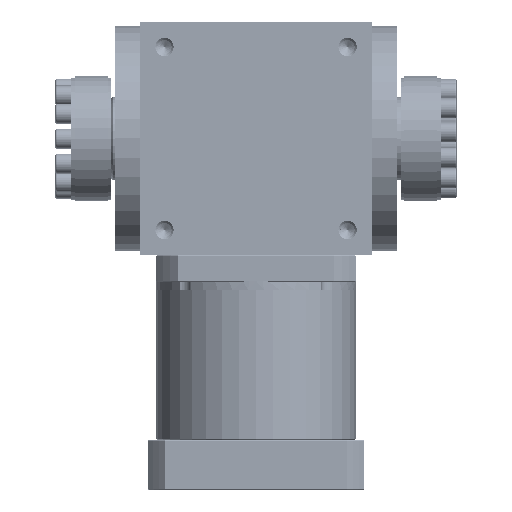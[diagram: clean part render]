
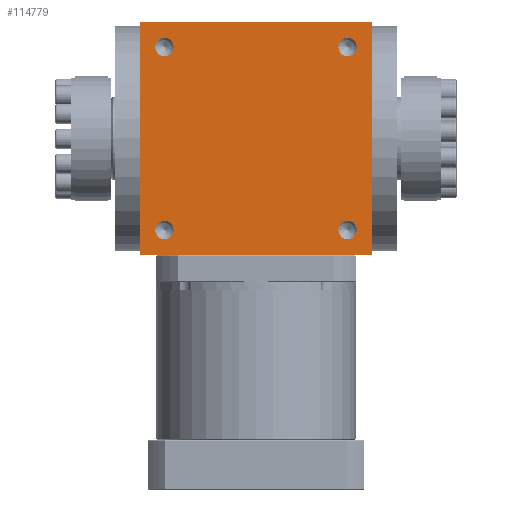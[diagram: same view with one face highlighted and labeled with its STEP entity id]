
A CAD part, top view. The second image highlights one B-rep face of the part: STEP entity #114779.
In plain terms, the highlighted planar face has unit normal (0, 0, 1).
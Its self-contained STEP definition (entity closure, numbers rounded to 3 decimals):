
#281 = DIRECTION ( 'NONE',  ( 1., 0., 0. ) ) ;
#366 = DIRECTION ( 'NONE',  ( 0., -1., 0. ) ) ;
#1118 = AXIS2_PLACEMENT_3D ( 'NONE', #122583, #160795, #148311 ) ;
#3723 = ORIENTED_EDGE ( 'NONE', *, *, #171736, .F. ) ;
#4622 = CIRCLE ( 'NONE', #30126, 5.5 ) ;
#6219 = CARTESIAN_POINT ( 'NONE',  ( -80.003, -36.401, 311. ) ) ;
#7554 = VERTEX_POINT ( 'NONE', #149835 ) ;
#8217 = DIRECTION ( 'NONE',  ( 0., 0., 1. ) ) ;
#9090 = CARTESIAN_POINT ( 'NONE',  ( 24.497, 73.599, 311. ) ) ;
#13333 = DIRECTION ( 'NONE',  ( 1., 0., 0. ) ) ;
#14152 = CIRCLE ( 'NONE', #141646, 5.5 ) ;
#15386 = DIRECTION ( 'NONE',  ( 0., 0., 1. ) ) ;
#17047 = EDGE_CURVE ( 'NONE', #129486, #90018, #80475, .T. ) ;
#19642 = CARTESIAN_POINT ( 'NONE',  ( 29.997, -36.401, 311. ) ) ;
#23211 = CARTESIAN_POINT ( 'NONE',  ( 39.497, -51.401, 311. ) ) ;
#23356 = CARTESIAN_POINT ( 'NONE',  ( -30.503, 18.599, 311. ) ) ;
#24204 = CARTESIAN_POINT ( 'NONE',  ( 29.997, 73.599, 311. ) ) ;
#24322 = CARTESIAN_POINT ( 'NONE',  ( -100.503, -51.401, 311. ) ) ;
#26348 = VECTOR ( 'NONE', #140947, 1000. ) ;
#26973 = CARTESIAN_POINT ( 'NONE',  ( -85.503, 73.599, 311. ) ) ;
#30126 = AXIS2_PLACEMENT_3D ( 'NONE', #110170, #52564, #119952 ) ;
#32236 = AXIS2_PLACEMENT_3D ( 'NONE', #9090, #8217, #89861 ) ;
#32744 = LINE ( 'NONE', #153352, #26348 ) ;
#33504 = VERTEX_POINT ( 'NONE', #81417 ) ;
#37659 = VERTEX_POINT ( 'NONE', #105103 ) ;
#37753 = CARTESIAN_POINT ( 'NONE',  ( 24.497, -36.401, 311. ) ) ;
#38310 = ORIENTED_EDGE ( 'NONE', *, *, #17047, .F. ) ;
#43591 = AXIS2_PLACEMENT_3D ( 'NONE', #87486, #48411, #100792 ) ;
#46704 = CARTESIAN_POINT ( 'NONE',  ( -100.503, 88.599, 311. ) ) ;
#47044 = VERTEX_POINT ( 'NONE', #115312 ) ;
#48411 = DIRECTION ( 'NONE',  ( 0., 0., 1. ) ) ;
#51393 = VERTEX_POINT ( 'NONE', #23211 ) ;
#52564 = DIRECTION ( 'NONE',  ( 0., 0., 1. ) ) ;
#52838 = CARTESIAN_POINT ( 'NONE',  ( -91.003, 73.599, 311. ) ) ;
#54987 = DIRECTION ( 'NONE',  ( 0., 0., 1. ) ) ;
#58146 = ORIENTED_EDGE ( 'NONE', *, *, #127812, .T. ) ;
#58197 = CARTESIAN_POINT ( 'NONE',  ( 18.997, -36.401, 311. ) ) ;
#59067 = VERTEX_POINT ( 'NONE', #58197 ) ;
#60207 = DIRECTION ( 'NONE',  ( 1., 0., 0. ) ) ;
#60619 = EDGE_LOOP ( 'NONE', ( #154512, #140925 ) ) ;
#61541 = DIRECTION ( 'NONE',  ( 1., 0., 0. ) ) ;
#62267 = VERTEX_POINT ( 'NONE', #24322 ) ;
#66550 = CARTESIAN_POINT ( 'NONE',  ( 24.497, 73.599, 311. ) ) ;
#69328 = DIRECTION ( 'NONE',  ( 0., 0., 1. ) ) ;
#70055 = AXIS2_PLACEMENT_3D ( 'NONE', #26973, #15386, #281 ) ;
#71967 = CIRCLE ( 'NONE', #43591, 5.5 ) ;
#76124 = EDGE_CURVE ( 'NONE', #37659, #102957, #171963, .T. ) ;
#76578 = FACE_BOUND ( 'NONE', #60619, .T. ) ;
#79079 = EDGE_LOOP ( 'NONE', ( #38310, #144112 ) ) ;
#80475 = CIRCLE ( 'NONE', #32236, 5.5 ) ;
#81417 = CARTESIAN_POINT ( 'NONE',  ( 39.497, 88.599, 311. ) ) ;
#82699 = CIRCLE ( 'NONE', #116657, 5.5 ) ;
#82703 = AXIS2_PLACEMENT_3D ( 'NONE', #23356, #114771, #61541 ) ;
#82875 = EDGE_LOOP ( 'NONE', ( #166217, #112116 ) ) ;
#87486 = CARTESIAN_POINT ( 'NONE',  ( -85.503, 73.599, 311. ) ) ;
#88150 = FACE_BOUND ( 'NONE', #82875, .T. ) ;
#89242 = EDGE_CURVE ( 'NONE', #33504, #47044, #138991, .T. ) ;
#89861 = DIRECTION ( 'NONE',  ( 1., 0., 0. ) ) ;
#90018 = VERTEX_POINT ( 'NONE', #97561 ) ;
#90906 = ORIENTED_EDGE ( 'NONE', *, *, #110226, .T. ) ;
#91867 = EDGE_LOOP ( 'NONE', ( #90906, #58146, #162664, #120368 ) ) ;
#91879 = DIRECTION ( 'NONE',  ( 0., 0., 1. ) ) ;
#92227 = ORIENTED_EDGE ( 'NONE', *, *, #155962, .F. ) ;
#97561 = CARTESIAN_POINT ( 'NONE',  ( 18.997, 73.599, 311. ) ) ;
#100792 = DIRECTION ( 'NONE',  ( 1., 0., 0. ) ) ;
#101013 = CARTESIAN_POINT ( 'NONE',  ( -100.503, -51.401, 311. ) ) ;
#102957 = VERTEX_POINT ( 'NONE', #52838 ) ;
#105103 = CARTESIAN_POINT ( 'NONE',  ( -80.003, 73.599, 311. ) ) ;
#110170 = CARTESIAN_POINT ( 'NONE',  ( -85.503, -36.401, 311. ) ) ;
#110226 = EDGE_CURVE ( 'NONE', #47044, #62267, #136990, .T. ) ;
#111522 = DIRECTION ( 'NONE',  ( -1., 0., 0. ) ) ;
#112116 = ORIENTED_EDGE ( 'NONE', *, *, #139937, .F. ) ;
#112813 = CARTESIAN_POINT ( 'NONE',  ( -85.503, -36.401, 311. ) ) ;
#114771 = DIRECTION ( 'NONE',  ( 0., 0., 1. ) ) ;
#114779 = ADVANCED_FACE ( 'NONE', ( #116502, #88150, #76578, #170567, #143965 ), #144843, .T. ) ;
#115312 = CARTESIAN_POINT ( 'NONE',  ( -100.503, 88.599, 311. ) ) ;
#116502 = FACE_BOUND ( 'NONE', #79079, .T. ) ;
#116657 = AXIS2_PLACEMENT_3D ( 'NONE', #112813, #69328, #139378 ) ;
#116966 = VECTOR ( 'NONE', #60207, 1000. ) ;
#119952 = DIRECTION ( 'NONE',  ( 1., 0., 0. ) ) ;
#120368 = ORIENTED_EDGE ( 'NONE', *, *, #89242, .T. ) ;
#121932 = CARTESIAN_POINT ( 'NONE',  ( -100.503, 88.599, 311. ) ) ;
#122583 = CARTESIAN_POINT ( 'NONE',  ( 24.497, -36.401, 311. ) ) ;
#122974 = VERTEX_POINT ( 'NONE', #19642 ) ;
#126739 = LINE ( 'NONE', #101013, #116966 ) ;
#127812 = EDGE_CURVE ( 'NONE', #62267, #51393, #126739, .T. ) ;
#129486 = VERTEX_POINT ( 'NONE', #24204 ) ;
#131439 = EDGE_CURVE ( 'NONE', #51393, #33504, #32744, .T. ) ;
#132880 = CIRCLE ( 'NONE', #169699, 5.5 ) ;
#136990 = LINE ( 'NONE', #121932, #161477 ) ;
#137374 = EDGE_LOOP ( 'NONE', ( #92227, #3723 ) ) ;
#138991 = LINE ( 'NONE', #46704, #148474 ) ;
#139378 = DIRECTION ( 'NONE',  ( 1., 0., 0. ) ) ;
#139937 = EDGE_CURVE ( 'NONE', #7554, #167240, #4622, .T. ) ;
#140925 = ORIENTED_EDGE ( 'NONE', *, *, #155202, .F. ) ;
#140947 = DIRECTION ( 'NONE',  ( 0., 1., 0. ) ) ;
#141646 = AXIS2_PLACEMENT_3D ( 'NONE', #37753, #91879, #145948 ) ;
#143965 = FACE_OUTER_BOUND ( 'NONE', #91867, .T. ) ;
#144112 = ORIENTED_EDGE ( 'NONE', *, *, #144321, .F. ) ;
#144321 = EDGE_CURVE ( 'NONE', #90018, #129486, #132880, .T. ) ;
#144843 = PLANE ( 'NONE',  #82703 ) ;
#145948 = DIRECTION ( 'NONE',  ( 1., 0., 0. ) ) ;
#148311 = DIRECTION ( 'NONE',  ( 1., 0., 0. ) ) ;
#148474 = VECTOR ( 'NONE', #111522, 1000. ) ;
#149835 = CARTESIAN_POINT ( 'NONE',  ( -91.003, -36.401, 311. ) ) ;
#150915 = EDGE_CURVE ( 'NONE', #167240, #7554, #82699, .T. ) ;
#153352 = CARTESIAN_POINT ( 'NONE',  ( 39.497, 88.599, 311. ) ) ;
#154512 = ORIENTED_EDGE ( 'NONE', *, *, #76124, .F. ) ;
#155202 = EDGE_CURVE ( 'NONE', #102957, #37659, #71967, .T. ) ;
#155962 = EDGE_CURVE ( 'NONE', #122974, #59067, #159818, .T. ) ;
#159818 = CIRCLE ( 'NONE', #1118, 5.5 ) ;
#160795 = DIRECTION ( 'NONE',  ( 0., 0., 1. ) ) ;
#161477 = VECTOR ( 'NONE', #366, 1000. ) ;
#162664 = ORIENTED_EDGE ( 'NONE', *, *, #131439, .T. ) ;
#166217 = ORIENTED_EDGE ( 'NONE', *, *, #150915, .F. ) ;
#167240 = VERTEX_POINT ( 'NONE', #6219 ) ;
#169699 = AXIS2_PLACEMENT_3D ( 'NONE', #66550, #54987, #13333 ) ;
#170567 = FACE_BOUND ( 'NONE', #137374, .T. ) ;
#171736 = EDGE_CURVE ( 'NONE', #59067, #122974, #14152, .T. ) ;
#171963 = CIRCLE ( 'NONE', #70055, 5.5 ) ;
